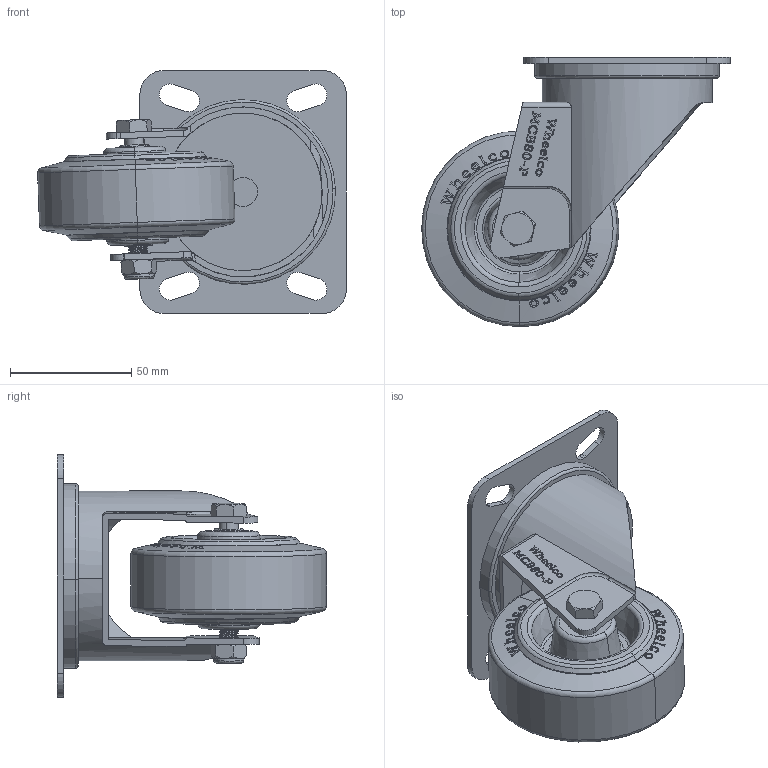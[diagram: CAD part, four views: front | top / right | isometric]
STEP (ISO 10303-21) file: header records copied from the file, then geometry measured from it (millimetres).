
FILE_DESCRIPTION (( 'STEP AP214' ), '1' );
FILE_NAME ('MDB80-P.step', '2024-01-21T22:15:25', ( '' ), ( '' ), 'SwSTEP 2.0', 'SolidWorks 2022', '' );
FILE_SCHEMA (( 'AUTOMOTIVE_DESIGN' ));
Length unit declared in the file: millimetre
Products named in the file (7): 100X85 ANGLED; MDB80-P; MC80-P; M8x55; MCB80; M8Nyloc; SP12-8-41-SS
Assembly tree (6 placements, depth 2):
  MDB80-P
    MC80-P
    M8Nyloc
    M8x55
    SP12-8-41-SS
    MCB80
    100X85 ANGLED
Bounding box: 127.08 x 110.75 x 100 mm (x, y, z)
Volume: 201592 mm3; surface area: 77830.3 mm2
Topology: 6 solids, 6 shells, 831 faces, 2200 edges, 1441 vertices
Faces by surface type: plane 378, bspline 214, cylinder 153, torus 42, cone 42, sphere 2
Entity records: 42988 total; most frequent: CARTESIAN_POINT 22946, ORIENTED_EDGE 4400, DIRECTION 3051, EDGE_CURVE 2200, VERTEX_POINT 1441, VECTOR 1165, LINE 1165, AXIS2_PLACEMENT_3D 943
